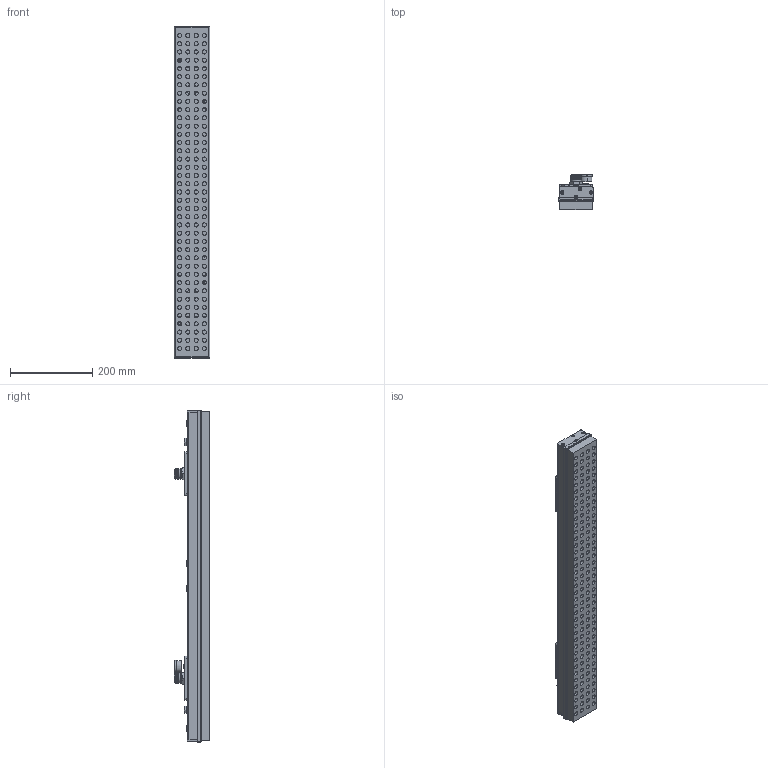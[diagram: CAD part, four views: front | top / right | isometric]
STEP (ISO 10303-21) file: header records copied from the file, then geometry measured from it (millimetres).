
FILE_DESCRIPTION (( 'STEP AP214' ), '1' );
FILE_NAME ('9671 080 012.STEP', '2008-08-14T08:09:50', ( 'Bosse' ), ( '' ), 'SwSTEP 2.0', 'SolidWorks 2008', '' );
FILE_SCHEMA (( 'AUTOMOTIVE_DESIGN' ));
Length unit declared in the file: millimetre
Products named in the file (1): 9671 080 012
Bounding box: 86 x 86 x 806 mm (x, y, z)
Surface area: 439203.6 mm2 (no closed solid volume)
Topology: 0 solids, 54 shells, 761 faces, 2715 edges, 2002 vertices
Faces by surface type: cylinder 439, plane 252, cone 42, torus 20, bspline 8
Entity records: 39015 total; most frequent: CARTESIAN_POINT 6287, DIRECTION 5491, ORIENTED_EDGE 4112, EDGE_CURVE 2715, AXIS2_PLACEMENT_3D 2146, VERTEX_POINT 2002, CIRCLE 1392, VECTOR 1199
